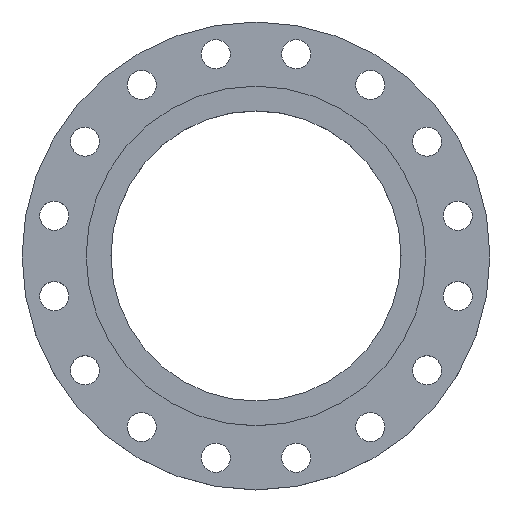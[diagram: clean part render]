
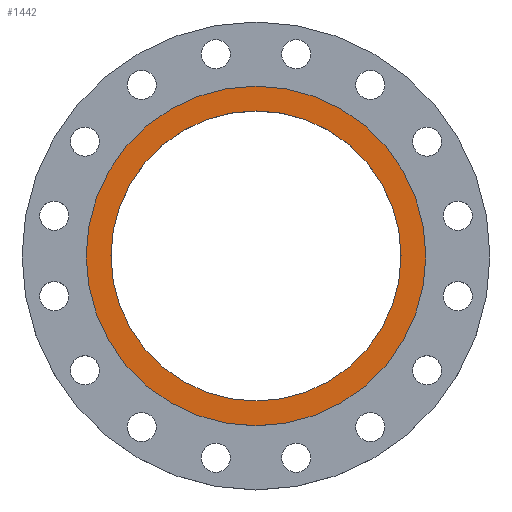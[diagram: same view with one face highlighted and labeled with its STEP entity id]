
A CAD part, top view. The second image highlights one B-rep face of the part: STEP entity #1442.
In plain terms, the highlighted planar face has unit normal (0, 0, 1).
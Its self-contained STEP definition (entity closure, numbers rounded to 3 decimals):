
#21 = VERTEX_POINT ( 'NONE', #1606 ) ;
#103 = EDGE_CURVE ( 'NONE', #427, #21, #428, .T. ) ;
#128 = EDGE_LOOP ( 'NONE', ( #596, #597 ) ) ;
#137 = EDGE_CURVE ( 'NONE', #957, #496, #940, .T. ) ;
#233 = AXIS2_PLACEMENT_3D ( 'NONE', #936, #928, #929 ) ;
#395 = DIRECTION ( 'NONE',  ( 1., 0., 0. ) ) ;
#399 = DIRECTION ( 'NONE',  ( 0., 0., 1. ) ) ;
#400 = CARTESIAN_POINT ( 'NONE',  ( 0., 0., 0. ) ) ;
#401 = PLANE ( 'NONE',  #812 ) ;
#404 = FACE_OUTER_BOUND ( 'NONE', #493, .T. ) ;
#409 = FACE_BOUND ( 'NONE', #128, .T. ) ;
#427 = VERTEX_POINT ( 'NONE', #1368 ) ;
#428 = CIRCLE ( 'NONE', #1295, 210.5 ) ;
#493 = EDGE_LOOP ( 'NONE', ( #598, #600 ) ) ;
#496 = VERTEX_POINT ( 'NONE', #1328 ) ;
#564 = CIRCLE ( 'NONE', #574, 210.5 ) ;
#574 = AXIS2_PLACEMENT_3D ( 'NONE', #1298, #1297, #1293 ) ;
#593 = EDGE_CURVE ( 'NONE', #21, #427, #564, .T. ) ;
#596 = ORIENTED_EDGE ( 'NONE', *, *, #137, .F. ) ;
#597 = ORIENTED_EDGE ( 'NONE', *, *, #1174, .F. ) ;
#598 = ORIENTED_EDGE ( 'NONE', *, *, #593, .F. ) ;
#600 = ORIENTED_EDGE ( 'NONE', *, *, #103, .F. ) ;
#812 = AXIS2_PLACEMENT_3D ( 'NONE', #400, #399, #395 ) ;
#928 = DIRECTION ( 'NONE',  ( 0., 0., 1. ) ) ;
#929 = DIRECTION ( 'NONE',  ( 1., 0., 0. ) ) ;
#936 = CARTESIAN_POINT ( 'NONE',  ( 0., 0., 0. ) ) ;
#940 = CIRCLE ( 'NONE', #1408, 179.75 ) ;
#957 = VERTEX_POINT ( 'NONE', #1005 ) ;
#1005 = CARTESIAN_POINT ( 'NONE',  ( 179.75, 0., 0. ) ) ;
#1174 = EDGE_CURVE ( 'NONE', #496, #957, #1507, .T. ) ;
#1293 = DIRECTION ( 'NONE',  ( -1., 0., 0. ) ) ;
#1295 = AXIS2_PLACEMENT_3D ( 'NONE', #1548, #1547, #1546 ) ;
#1297 = DIRECTION ( 'NONE',  ( 0., 0., -1. ) ) ;
#1298 = CARTESIAN_POINT ( 'NONE',  ( 0., 0., 0. ) ) ;
#1328 = CARTESIAN_POINT ( 'NONE',  ( -179.75, 0., 0. ) ) ;
#1368 = CARTESIAN_POINT ( 'NONE',  ( 210.5, 0., 0. ) ) ;
#1408 = AXIS2_PLACEMENT_3D ( 'NONE', #1533, #1532, #1531 ) ;
#1442 = ADVANCED_FACE ( 'NONE', ( #409, #404 ), #401, .T. ) ;
#1507 = CIRCLE ( 'NONE', #233, 179.75 ) ;
#1531 = DIRECTION ( 'NONE',  ( 1., 0., 0. ) ) ;
#1532 = DIRECTION ( 'NONE',  ( 0., 0., 1. ) ) ;
#1533 = CARTESIAN_POINT ( 'NONE',  ( 0., 0., 0. ) ) ;
#1546 = DIRECTION ( 'NONE',  ( -1., 0., 0. ) ) ;
#1547 = DIRECTION ( 'NONE',  ( 0., 0., -1. ) ) ;
#1548 = CARTESIAN_POINT ( 'NONE',  ( 0., 0., 0. ) ) ;
#1606 = CARTESIAN_POINT ( 'NONE',  ( -210.5, 0., 0. ) ) ;
